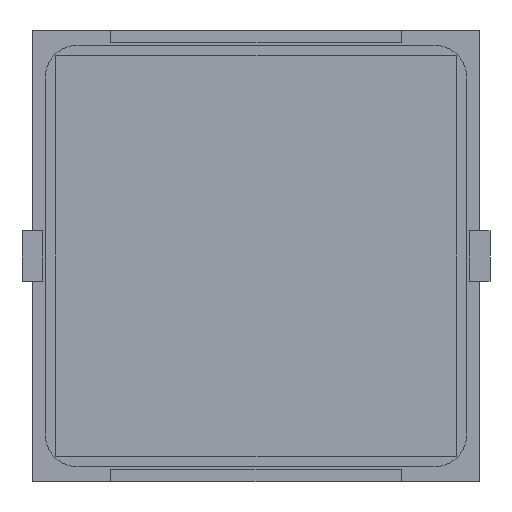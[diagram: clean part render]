
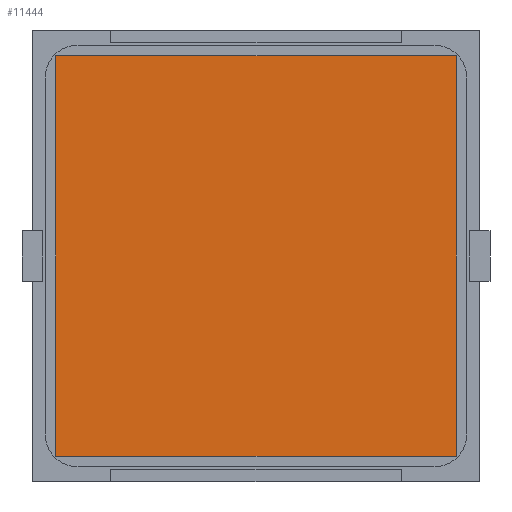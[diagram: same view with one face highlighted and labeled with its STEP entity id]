
A CAD part, front view. The second image highlights one B-rep face of the part: STEP entity #11444.
In plain terms, the highlighted planar face has unit normal (0, -1, 0).
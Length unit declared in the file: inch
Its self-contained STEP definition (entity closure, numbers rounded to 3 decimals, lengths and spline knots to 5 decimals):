
#606 = CARTESIAN_POINT ( 'NONE',  ( -0.7874, -0.005, -0.7874 ) ) ;
#704 = VERTEX_POINT ( 'NONE', #12209 ) ;
#742 = ORIENTED_EDGE ( 'NONE', *, *, #2562, .T. ) ;
#1536 = LINE ( 'NONE', #606, #10776 ) ;
#1549 = ORIENTED_EDGE ( 'NONE', *, *, #5703, .T. ) ;
#1688 = PLANE ( 'NONE',  #6696 ) ;
#2554 = CARTESIAN_POINT ( 'NONE',  ( 0.7874, -0.005, -0.7874 ) ) ;
#2562 = EDGE_CURVE ( 'NONE', #8382, #704, #1536, .T. ) ;
#2699 = DIRECTION ( 'NONE',  ( 0., 0., 1. ) ) ;
#3324 = LINE ( 'NONE', #10896, #7244 ) ;
#3497 = EDGE_LOOP ( 'NONE', ( #1549, #8386, #742, #11995 ) ) ;
#3855 = DIRECTION ( 'NONE',  ( 0., -1., 0. ) ) ;
#4579 = CARTESIAN_POINT ( 'NONE',  ( 0.7874, -0.005, -0.7874 ) ) ;
#4854 = VECTOR ( 'NONE', #2699, 39.37008 ) ;
#5231 = CARTESIAN_POINT ( 'NONE',  ( 0.7874, -0.005, -0.7874 ) ) ;
#5461 = EDGE_CURVE ( 'NONE', #7330, #8382, #3324, .T. ) ;
#5600 = CARTESIAN_POINT ( 'NONE',  ( 0.7874, -0.005, 0.7874 ) ) ;
#5630 = DIRECTION ( 'NONE',  ( 1., 0., 0. ) ) ;
#5703 = EDGE_CURVE ( 'NONE', #8829, #7330, #11138, .T. ) ;
#6696 = AXIS2_PLACEMENT_3D ( 'NONE', #5600, #3855, #8649 ) ;
#7244 = VECTOR ( 'NONE', #10833, 39.37008 ) ;
#7330 = VERTEX_POINT ( 'NONE', #7663 ) ;
#7337 = LINE ( 'NONE', #4579, #9260 ) ;
#7663 = CARTESIAN_POINT ( 'NONE',  ( 0.7874, -0.005, 0.7874 ) ) ;
#8272 = EDGE_CURVE ( 'NONE', #704, #8829, #7337, .T. ) ;
#8382 = VERTEX_POINT ( 'NONE', #10260 ) ;
#8386 = ORIENTED_EDGE ( 'NONE', *, *, #5461, .T. ) ;
#8649 = DIRECTION ( 'NONE',  ( 0., 0., 1. ) ) ;
#8829 = VERTEX_POINT ( 'NONE', #5231 ) ;
#9260 = VECTOR ( 'NONE', #5630, 39.37008 ) ;
#10260 = CARTESIAN_POINT ( 'NONE',  ( -0.7874, -0.005, 0.7874 ) ) ;
#10298 = FACE_OUTER_BOUND ( 'NONE', #3497, .T. ) ;
#10776 = VECTOR ( 'NONE', #12211, 39.37008 ) ;
#10833 = DIRECTION ( 'NONE',  ( -1., 0., 0. ) ) ;
#10896 = CARTESIAN_POINT ( 'NONE',  ( 0.7874, -0.005, 0.7874 ) ) ;
#11138 = LINE ( 'NONE', #2554, #4854 ) ;
#11444 = ADVANCED_FACE ( 'NONE', ( #10298 ), #1688, .T. ) ;
#11995 = ORIENTED_EDGE ( 'NONE', *, *, #8272, .T. ) ;
#12209 = CARTESIAN_POINT ( 'NONE',  ( -0.7874, -0.005, -0.7874 ) ) ;
#12211 = DIRECTION ( 'NONE',  ( 0., 0., -1. ) ) ;
